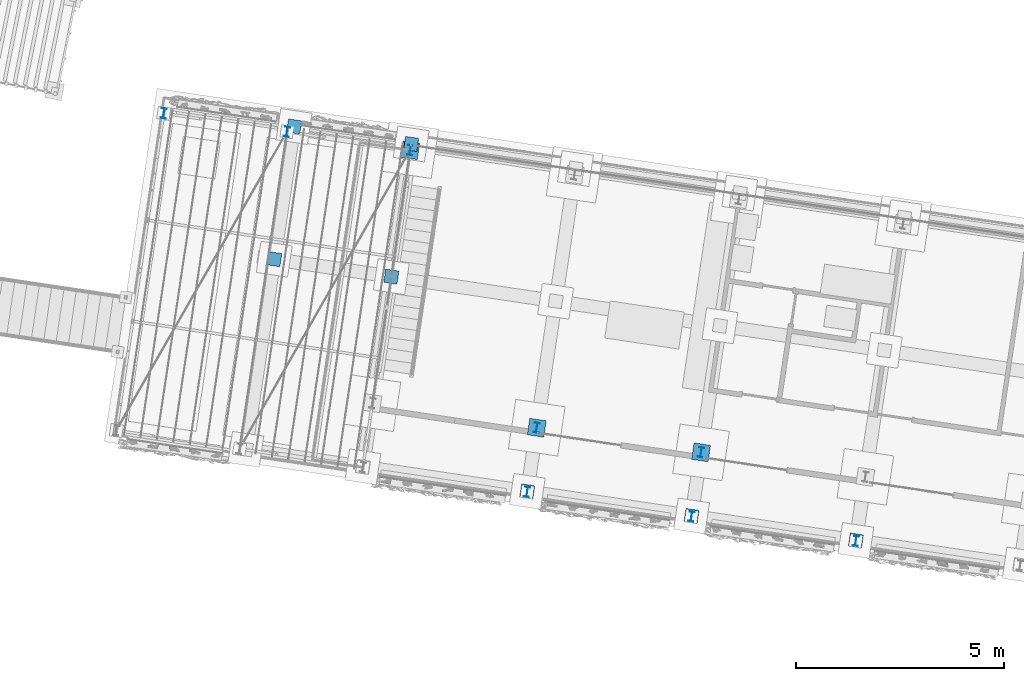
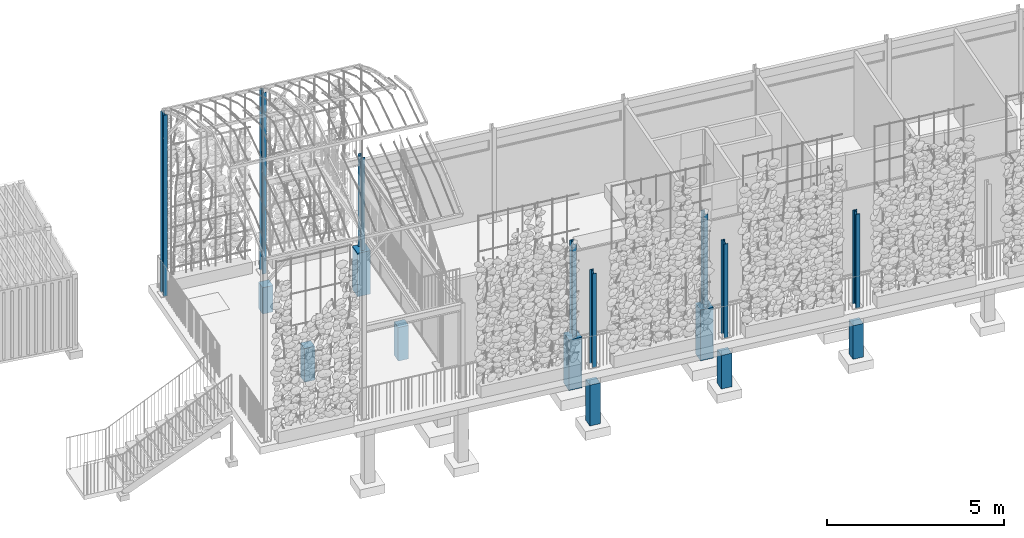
# One storey, part 3 of 142: 18 columns, 2 elements without a shape of their own.
"""IFC4 building model written with IfcOpenShell, lengths in metres."""

from ifc_helpers import new_model, si_unit, direction, frame, origin_with_axes, place, context, subcontext, project, spatial, polyline, i_section, outline, extrude, material, material_profile, profile_set, profile_usage, type_object, element, aggregate, save


model = new_model("IFC4")

# Units and contexts
model_context = context("Model", 3, precision=1e-05, world=origin_with_axes(), true_north=direction((0.0, 1.0)))
body_context = subcontext(model_context, "Body", "Model", "MODEL_VIEW")
ifc_project = project(units=[si_unit("AREAUNIT", "SQUARE_METRE"), si_unit("VOLUMEUNIT", "CUBIC_METRE"), si_unit("LENGTHUNIT", "METRE")], contexts=[model_context])

# Site, building, storey
site_placement = place(None, origin_with_axes())
site = spatial("IfcSite", under=ifc_project, at=site_placement, Name="Lares · Rua das Mercês · artigo 4771")
building_placement = place(site_placement, frame((15.0, 9.7, 14.65), z_axis=(0.0, 0.0, 1.0), x_axis=(0.989015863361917, -0.147809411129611, 0.0)))
building = spatial("IfcBuilding", under=site, at=building_placement, Name="Casa Sobreposta")
storey_placement = place(building_placement, origin_with_axes())
storey = spatial("IfcBuildingStorey", under=building, at=storey_placement, Name="00 · Habitação e estacionamento", Elevation=14.65)

# Columns
ifc_material_1 = material(Name="Aço pintado / Stahl lackiert", Category="steel")
ifc_material_profile = material_profile(ifc_material_1, i_section(OverallWidth=0.12, OverallDepth=0.24, WebThickness=0.0062, FlangeThickness=0.0098))
ifc_profile_set = profile_set([ifc_material_profile], Name="IPE240")
ifc_profile_usage_1 = profile_usage(ifc_profile_set)
column_type = type_object("IfcColumnType", Name="IPE240 / steel", PredefinedType="NOTDEFINED", material=ifc_profile_set)
column_1_placement = place(storey_placement, frame((0.0, 6.28, 0.0), z_axis=(0.0, 0.0, 1.0), x_axis=(1.0, 0.0, 0.0)))
element("IfcColumn", 1, at=column_1_placement, inside=storey, type_object=column_type, material=ifc_profile_usage_1, Name="Pilar 1B · IPE240", context=body_context, shape_type="SweptSolid", body=[
    extrude(i_section(OverallWidth=0.12, OverallDepth=0.24, WebThickness=0.0062, FlangeThickness=0.0098), origin_with_axes(), (0.0, 0.0, 1.0), 3.208),
])
ifc_profile_usage_2 = profile_usage(ifc_profile_set)
column_2_placement = place(storey_placement, frame((4.0, 0.12, 0.0), z_axis=(0.0, 0.0, 1.0), x_axis=(1.0, 0.0, 0.0)))
element("IfcColumn", 2, at=column_2_placement, inside=storey, type_object=column_type, material=ifc_profile_usage_2, Name="Pilar 2A · IPE240", context=body_context, shape_type="SweptSolid", body=[
    extrude(i_section(OverallWidth=0.12, OverallDepth=0.24, WebThickness=0.0062, FlangeThickness=0.0098), origin_with_axes(), (0.0, 0.0, 1.0), 3.208),
])
ifc_profile_usage_3 = profile_usage(ifc_profile_set)
column_3_placement = place(storey_placement, frame((8.0, 0.12, 0.0), z_axis=(0.0, 0.0, 1.0), x_axis=(1.0, 0.0, 0.0)))
element("IfcColumn", 3, at=column_3_placement, inside=storey, type_object=column_type, material=ifc_profile_usage_3, Name="Pilar 3A · IPE240", context=body_context, shape_type="SweptSolid", body=[
    extrude(i_section(OverallWidth=0.12, OverallDepth=0.24, WebThickness=0.0062, FlangeThickness=0.0098), origin_with_axes(), (0.0, 0.0, 1.0), 3.208),
])

# Assembly, columns
assembly_1_placement = place(storey_placement, origin_with_axes())
assembly_1 = element("IfcElementAssembly", 4, at=assembly_1_placement, inside=storey, Name="Pérgola · prolongamento da estufa 6 m", ObjectType="PERGOLA_GREENHOUSE_EXTENSION", PredefinedType="USERDEFINED")
ifc_profile_usage_4 = profile_usage(ifc_profile_set)
column_4_placement = place(assembly_1_placement, frame((-6.0, 6.28, -0.04), z_axis=(0.0, 0.0, 1.0), x_axis=(1.0, 0.0, 0.0)))
column_4 = element("IfcColumn", 5, at=column_4_placement, type_object=column_type, material=ifc_profile_usage_4, Name="Pérgola · pilar de duplo pé-direito", context=body_context, shape_type="SweptSolid", body=[
    extrude(i_section(OverallWidth=0.12, OverallDepth=0.24, WebThickness=0.0062, FlangeThickness=0.0098), origin_with_axes(), (0.0, 0.0, 1.0), 6.26),
])
ifc_profile_usage_5 = profile_usage(ifc_profile_set)
column_5_placement = place(assembly_1_placement, frame((-3.0, 6.28, -0.04), z_axis=(0.0, 0.0, 1.0), x_axis=(1.0, 0.0, 0.0)))
column_5 = element("IfcColumn", 6, at=column_5_placement, type_object=column_type, material=ifc_profile_usage_5, Name="Pérgola · pilar de duplo pé-direito", context=body_context, shape_type="SweptSolid", body=[
    extrude(i_section(OverallWidth=0.12, OverallDepth=0.24, WebThickness=0.0062, FlangeThickness=0.0098), origin_with_axes(), (0.0, 0.0, 1.0), 6.26),
])
aggregate(assembly_1, [column_4, column_5])

# Columns
ifc_profile_usage_6 = profile_usage(ifc_profile_set)
column_6_placement = place(storey_placement, frame((4.0, -1.44, -0.04), z_axis=(0.0, 0.0, 1.0), x_axis=(1.0, 0.0, 0.0)))
element("IfcColumn", 7, at=column_6_placement, inside=storey, type_object=column_type, material=ifc_profile_usage_6, Name="Projeção estufa · pilar sul ao pódio", context=body_context, shape_type="SweptSolid", body=[
    extrude(i_section(OverallWidth=0.12, OverallDepth=0.24, WebThickness=0.0062, FlangeThickness=0.0098), origin_with_axes(), (0.0, 0.0, 1.0), 3.248),
])
ifc_profile_usage_7 = profile_usage(ifc_profile_set)
column_7_placement = place(storey_placement, frame((8.0, -1.44, -0.04), z_axis=(0.0, 0.0, 1.0), x_axis=(1.0, 0.0, 0.0)))
element("IfcColumn", 8, at=column_7_placement, inside=storey, type_object=column_type, material=ifc_profile_usage_7, Name="Projeção estufa · pilar sul ao pódio", context=body_context, shape_type="SweptSolid", body=[
    extrude(i_section(OverallWidth=0.12, OverallDepth=0.24, WebThickness=0.0062, FlangeThickness=0.0098), origin_with_axes(), (0.0, 0.0, 1.0), 3.248),
])
ifc_profile_usage_8 = profile_usage(ifc_profile_set)
column_8_placement = place(storey_placement, frame((12.0, -1.44, -0.04), z_axis=(0.0, 0.0, 1.0), x_axis=(1.0, 0.0, 0.0)))
element("IfcColumn", 9, at=column_8_placement, inside=storey, type_object=column_type, material=ifc_profile_usage_8, Name="Projeção estufa · pilar sul ao pódio", context=body_context, shape_type="SweptSolid", body=[
    extrude(i_section(OverallWidth=0.12, OverallDepth=0.24, WebThickness=0.0062, FlangeThickness=0.0098), origin_with_axes(), (0.0, 0.0, 1.0), 3.248),
])
ifc_material_2 = material(Name="Betão armado / Stahlbeton", Category="concrete")
column_9_placement = place(storey_placement, frame((0.0, 0.0, -1.5), z_axis=(0.0, 0.0, 1.0), x_axis=(1.0, 0.0, 0.0)))
element("IfcColumn", 10, at=column_9_placement, inside=storey, material=ifc_material_2, Name="Pedestal 1B · betão 400 x 400", context=body_context, shape_type="SweptSolid", body=[
    extrude(outline(polyline([(0.2, 6.08), (0.2, 6.48), (-0.2, 6.48), (-0.2, 6.08), (0.2, 6.08)])), origin_with_axes(), (0.0, 0.0, 1.0), 1.5),
])
column_10_placement = place(storey_placement, frame((0.0, 0.0, -1.75), z_axis=(0.0, 0.0, 1.0), x_axis=(1.0, 0.0, 0.0)))
element("IfcColumn", 11, at=column_10_placement, inside=storey, material=ifc_material_2, Name="Pedestal 2A · betão 400 x 400", context=body_context, shape_type="SweptSolid", body=[
    extrude(outline(polyline([(4.2, -0.08), (4.2, 0.32), (3.8, 0.32), (3.8, -0.08), (4.2, -0.08)])), origin_with_axes(), (0.0, 0.0, 1.0), 1.75),
])
column_11_placement = place(storey_placement, frame((0.0, 0.0, -1.75), z_axis=(0.0, 0.0, 1.0), x_axis=(1.0, 0.0, 0.0)))
element("IfcColumn", 12, at=column_11_placement, inside=storey, material=ifc_material_2, Name="Pedestal 3A · betão 400 x 400", context=body_context, shape_type="SweptSolid", body=[
    extrude(outline(polyline([(8.2, -0.08), (8.2, 0.32), (7.8, 0.32), (7.8, -0.08), (8.2, -0.08)])), origin_with_axes(), (0.0, 0.0, 1.0), 1.75),
])

# Assembly, columns
assembly_2_placement = place(storey_placement, origin_with_axes())
assembly_2 = element("IfcElementAssembly", 13, at=assembly_2_placement, inside=storey, Name="Pódio · terraço, casa térrea e cisterna", ObjectType="CISTERN_PODIUM", PredefinedType="USERDEFINED")
column_12_placement = place(assembly_2_placement, frame((0.0, 0.0, -1.75), z_axis=(0.0, 0.0, 1.0), x_axis=(1.0, 0.0, 0.0)))
column_12 = element("IfcColumn", 14, at=column_12_placement, material=ifc_material_2, Name="Pódio suspenso · apoio sobre o terreno", context=body_context, shape_type="SweptSolid", body=[
    extrude(outline(polyline([(-2.69, 3.04), (-2.69, 3.36), (-3.01, 3.36), (-3.01, 3.04), (-2.69, 3.04)])), origin_with_axes(), (0.0, 0.0, 1.0), 1.16),
])
column_13_placement = place(assembly_2_placement, frame((0.0, 0.0, -1.5), z_axis=(0.0, 0.0, 1.0), x_axis=(1.0, 0.0, 0.0)))
column_13 = element("IfcColumn", 15, at=column_13_placement, material=ifc_material_2, Name="Pódio suspenso · apoio sobre o terreno", context=body_context, shape_type="SweptSolid", body=[
    extrude(outline(polyline([(-2.69, 6.27), (-2.69, 6.59), (-3.01, 6.59), (-3.01, 6.27), (-2.69, 6.27)])), origin_with_axes(), (0.0, 0.0, 1.0), 0.91),
])
column_14_placement = place(assembly_2_placement, frame((0.0, 0.0, -1.75), z_axis=(0.0, 0.0, 1.0), x_axis=(1.0, 0.0, 0.0)))
column_14 = element("IfcColumn", 16, at=column_14_placement, material=ifc_material_2, Name="Pódio suspenso · apoio sobre o terreno", context=body_context, shape_type="SweptSolid", body=[
    extrude(outline(polyline([(0.16, 3.04), (0.16, 3.36), (-0.16, 3.36), (-0.16, 3.04), (0.16, 3.04)])), origin_with_axes(), (0.0, 0.0, 1.0), 1.16),
])
column_15_placement = place(assembly_2_placement, frame((0.0, 0.0, -1.5), z_axis=(0.0, 0.0, 1.0), x_axis=(1.0, 0.0, 0.0)))
column_15 = element("IfcColumn", 17, at=column_15_placement, material=ifc_material_2, Name="Pódio suspenso · apoio sobre o terreno", context=body_context, shape_type="SweptSolid", body=[
    extrude(outline(polyline([(0.16, 6.27), (0.16, 6.59), (-0.16, 6.59), (-0.16, 6.27), (0.16, 6.27)])), origin_with_axes(), (0.0, 0.0, 1.0), 0.91),
])
column_16_placement = place(assembly_2_placement, frame((0.0, 0.0, -2.0), z_axis=(0.0, 0.0, 1.0), x_axis=(1.0, 0.0, 0.0)))
column_16 = element("IfcColumn", 18, at=column_16_placement, material=ifc_material_2, Name="Pódio suspenso · apoio sobre o terreno", context=body_context, shape_type="SweptSolid", body=[
    extrude(outline(polyline([(4.16, -1.59), (4.16, -1.27), (3.84, -1.27), (3.84, -1.59), (4.16, -1.59)])), origin_with_axes(), (0.0, 0.0, 1.0), 1.41),
])
column_17_placement = place(assembly_2_placement, frame((0.0, 0.0, -1.75), z_axis=(0.0, 0.0, 1.0), x_axis=(1.0, 0.0, 0.0)))
column_17 = element("IfcColumn", 19, at=column_17_placement, material=ifc_material_2, Name="Pódio suspenso · apoio sobre o terreno", context=body_context, shape_type="SweptSolid", body=[
    extrude(outline(polyline([(8.16, -1.59), (8.16, -1.27), (7.84, -1.27), (7.84, -1.59), (8.16, -1.59)])), origin_with_axes(), (0.0, 0.0, 1.0), 1.16),
])
column_18_placement = place(assembly_2_placement, frame((0.0, 0.0, -1.75), z_axis=(0.0, 0.0, 1.0), x_axis=(1.0, 0.0, 0.0)))
column_18 = element("IfcColumn", 20, at=column_18_placement, material=ifc_material_2, Name="Pódio suspenso · apoio sobre o terreno", context=body_context, shape_type="SweptSolid", body=[
    extrude(outline(polyline([(12.16, -1.59), (12.16, -1.27), (11.84, -1.27), (11.84, -1.59), (12.16, -1.59)])), origin_with_axes(), (0.0, 0.0, 1.0), 1.16),
])
aggregate(assembly_2, [column_12, column_13, column_14, column_15, column_16, column_17, column_18])

save(model, "model.ifc")
